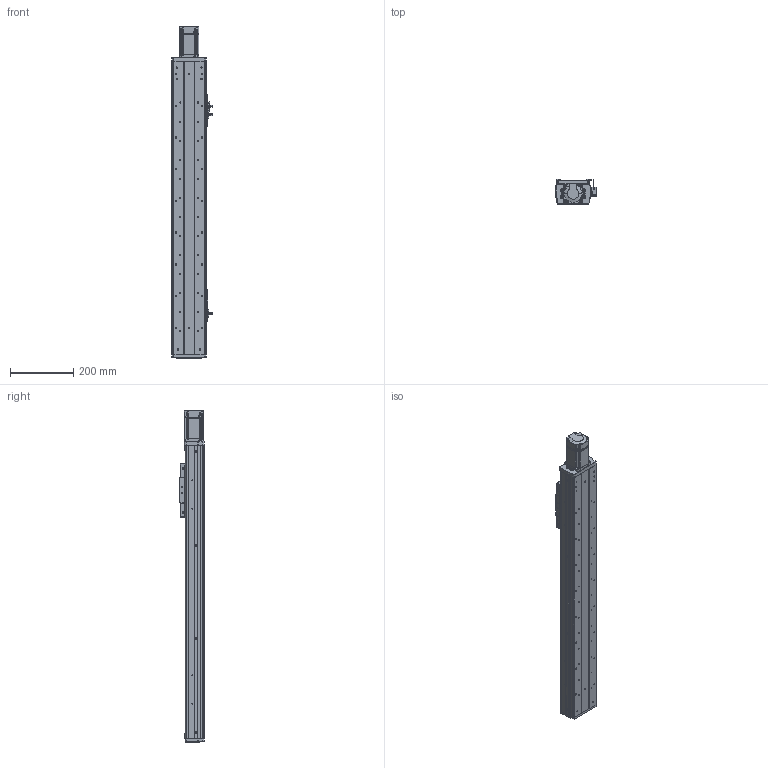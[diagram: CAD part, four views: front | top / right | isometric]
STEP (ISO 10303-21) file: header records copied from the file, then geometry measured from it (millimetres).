
FILE_DESCRIPTION (( 'STEP AP203' ), '1' );
FILE_NAME ('RY100FS-300-MK(15双轨).SLDASM_650.step', '2021-03-02T05:50:57', ( '盈信电脑' ), ( '东莞市道滘镇水果街19号' ), 'SwSTEP 2.0', 'SolidWorks 2012', '' );
FILE_SCHEMA (( 'CONFIG_CONTROL_DESIGN' ));
Length unit declared in the file: millimetre
Products named in the file (20): RY100FS-300-MK(15邧寢).SLDASM_650; 滅袉蝶14-35; RY100FS-双轨螺母座(16丝杆）; RY100FS-15絳寢萇儂假蚾啣(200W PCD70 M4); 滅袉蝶14-24; RY80俋离覜茼え; 覜茼ん672; RY100F-詩湍揤踡輸; RY100F-綴裔啣; 1; 侂狟200W萇儂; 672嫖萇羲壽假蚾釱; 棠沺沭; RY100F-詩湍幗謫粣; RY100F-滅鳥裔啣; RY100F-詩湍揤踡謫; RY100FS-300-MK15邧寢祥凄詩湍_650; RY100FS-双轨铝滑块(上板）; RY100FS-300-MK15絳寢倰第奻裔啣_650; RY100FS-300-MK15絳寢倰第菁釱_650
Assembly tree (27 placements, depth 3):
  RY100FS-300-MK(15邧寢).SLDASM_650
    RY100FS-300-MK15絳寢倰第菁釱_650
    RY100FS-300-MK15絳寢倰第奻裔啣_650  x2
    RY100FS-300-MK15邧寢祥凄詩湍_650
    RY100FS-双轨铝滑块(上板）
    RY100F-滅鳥裔啣
    棠沺沭  x2
    RY100F-詩湍幗謫粣
    RY100F-詩湍揤踡謫  x2
    侂狟200W萇儂
      1
    RY100F-綴裔啣
    672嫖萇羲壽假蚾釱  x2
    RY80俋离覜茼え  x2
    覜茼ん672  x3
    RY100F-詩湍揤踡輸  x2
    RY100FS-15絳寢萇儂假蚾啣(200W PCD70 M4)
    RY100FS-双轨螺母座(16丝杆）
    滅袉蝶14-24
    滅袉蝶14-35
Bounding box: 126.2 x 78.5 x 1046 mm (x, y, z)
Volume: 2278521.9 mm3; surface area: 923014.7 mm2
Topology: 26 solids, 26 shells, 2025 faces, 5526 edges, 3593 vertices
Faces by surface type: plane 970, cylinder 894, cone 136, bspline 25
Entity records: 57795 total; most frequent: CARTESIAN_POINT 12012, DIRECTION 9089, ORIENTED_EDGE 9032, EDGE_CURVE 4516, AXIS2_PLACEMENT_3D 3192, VERTEX_POINT 2973, LINE 2705, VECTOR 2705
